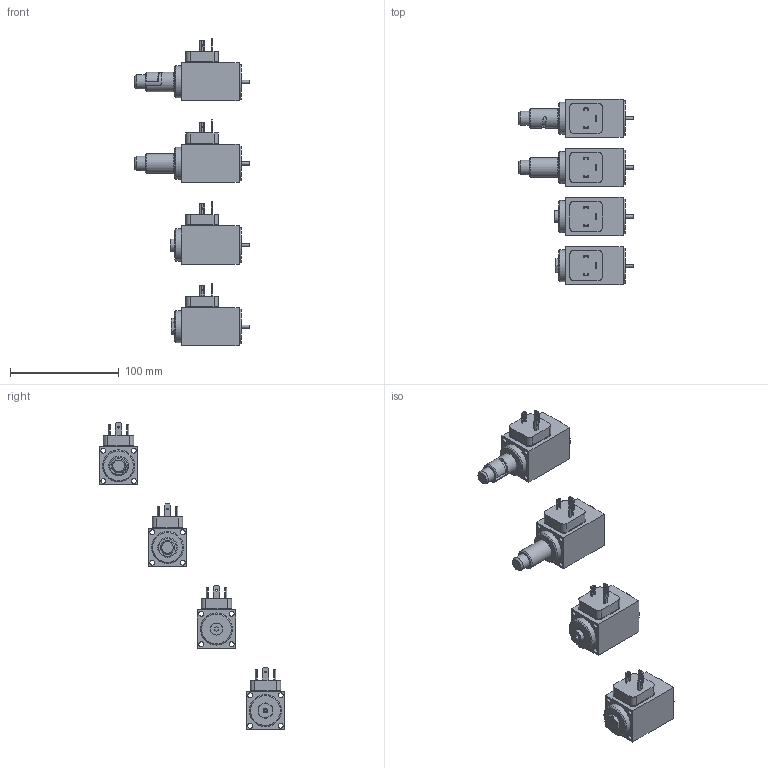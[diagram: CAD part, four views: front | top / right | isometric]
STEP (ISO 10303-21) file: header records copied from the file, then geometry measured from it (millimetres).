
FILE_DESCRIPTION(('Bauteilbeschreibung','HiCAD-Model','HiCAD-STEP-TRANSLATION','Bauteilbeschreibung'),'2;1');
FILE_NAME('K:/STEP_DXF/SIN35V.STP','2006-03-27T14:39:46+00:00',('Konstrukteur'),('Konstrukteur Firma GmbH'),'HiCAD3 V1210 STEP 1.6.2005','HiCAD3 V1210','confidential');
FILE_SCHEMA(('AUTOMOTIVE_DESIGN { 1 2 10303 214 0 1 1 1 }'));
Length unit declared in the file: millimetre
Products named in the file (29): SIN35V; SIN35V_H6; A446D095; DAB12417; DAB124170; DICHTUNG; A9350B1E; AD54FEE3; SIN35V_H1; DC71D274; DAB124171; DAB124172; DICHTUNG0; A270342B; AD54FEE30; SIN35V_HB4_5; A71A7FCB; A86115F3; DAB124173; DAB124174; DICHTUNG1; AD54FEE31; SIN35V_HB0; AAA22686; F134825D; DAB124175; DAB124176; DICHTUNG2; AD54FEE32
Assembly tree (28 placements, depth 5):
  SIN35V
    SIN35V_H6
      A446D095
        DAB12417
        DAB124170
          DICHTUNG
        A9350B1E
        AD54FEE3
    SIN35V_H1
      DC71D274
        DAB124171
        DAB124172
          DICHTUNG0
        A270342B
        AD54FEE30
    SIN35V_HB4_5
      A71A7FCB
        A86115F3
        DAB124173
        DAB124174
          DICHTUNG1
        AD54FEE31
    SIN35V_HB0
      AAA22686
        F134825D
        DAB124175
        DAB124176
          DICHTUNG2
        AD54FEE32
Bounding box: 106.3 x 170 x 282.5 mm (x, y, z)
Volume: 317898.9 mm3; surface area: 83296.7 mm2
Topology: 28 solids, 28 shells, 453 faces, 1062 edges, 718 vertices
Faces by surface type: plane 261, cylinder 155, cone 30, torus 7
Full cylindrical faces by diameter (mm): 1.5 x12, 2.5 x1, 2.9 x4, 3 x12, 4 x4, 4.2 x1, 4.5 x16, 6 x1, 6.4 x1, 6.8 x2, 8 x12, 11 x1, 12 x4, 12.5 x4, 13 x2, 18 x2, 29.5 x4, 32 x4
Entity records: 21558 total; most frequent: CARTESIAN_POINT 2794, DIRECTION 2219, ORIENTED_EDGE 1786, COLOUR_RGB 1362, PRESENTATION_STYLE_ASSIGNMENT 1362, OVER_RIDING_STYLED_ITEM 1346, CURVE_STYLE 893, DRAUGHTING_PRE_DEFINED_CURVE_FONT 893
